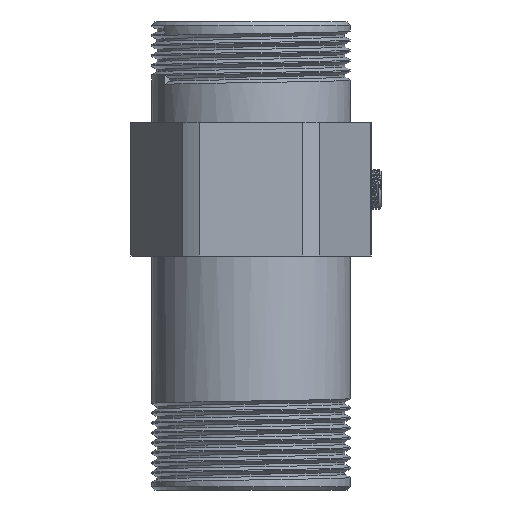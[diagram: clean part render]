
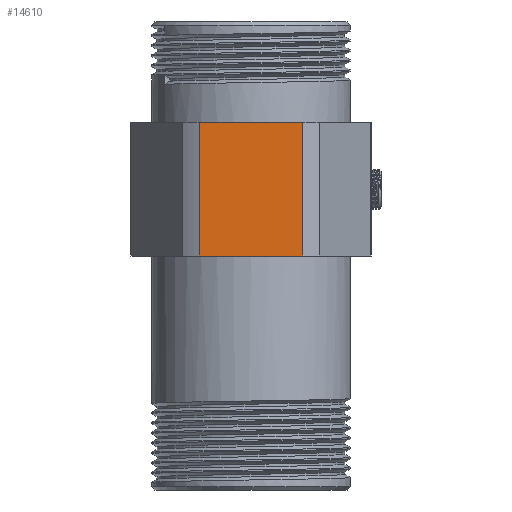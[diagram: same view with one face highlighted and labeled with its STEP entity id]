
A CAD part, front view. The second image highlights one B-rep face of the part: STEP entity #14610.
In plain terms, the highlighted planar face has unit normal (0, -1, 0) as drawn and (-0.5, -0.866, 0) by its records, which use the part's own axes.
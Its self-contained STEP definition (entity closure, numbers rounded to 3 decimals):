
#357 = CARTESIAN_POINT ( 'NONE',  ( -2.841, -35.888, 0. ) ) ;
#1802 = LINE ( 'NONE', #23992, #5715 ) ;
#1843 = DIRECTION ( 'NONE',  ( 0., 0., 1. ) ) ;
#2263 = ORIENTED_EDGE ( 'NONE', *, *, #16653, .T. ) ;
#2979 = VECTOR ( 'NONE', #1843, 1000. ) ;
#3436 = DIRECTION ( 'NONE',  ( -0.866, 0.5, 0. ) ) ;
#4241 = DIRECTION ( 'NONE',  ( 0.866, -0.5, 0. ) ) ;
#5713 = LINE ( 'NONE', #14267, #2979 ) ;
#5715 = VECTOR ( 'NONE', #23498, 1000. ) ;
#7046 = PLANE ( 'NONE',  #15812 ) ;
#7440 = CARTESIAN_POINT ( 'NONE',  ( -32.5, -18.764, 40. ) ) ;
#8102 = VERTEX_POINT ( 'NONE', #26094 ) ;
#8432 = VERTEX_POINT ( 'NONE', #24299 ) ;
#9445 = FACE_OUTER_BOUND ( 'NONE', #13673, .T. ) ;
#9979 = LINE ( 'NONE', #18152, #19593 ) ;
#13568 = DIRECTION ( 'NONE',  ( -0.5, -0.866, 0. ) ) ;
#13673 = EDGE_LOOP ( 'NONE', ( #14859, #20955, #2263, #13698 ) ) ;
#13698 = ORIENTED_EDGE ( 'NONE', *, *, #16489, .T. ) ;
#14267 = CARTESIAN_POINT ( 'NONE',  ( -2.841, -35.888, -27. ) ) ;
#14610 = ADVANCED_FACE ( 'NONE', ( #9445 ), #7046, .T. ) ;
#14859 = ORIENTED_EDGE ( 'NONE', *, *, #18820, .T. ) ;
#15477 = DIRECTION ( 'NONE',  ( 0.866, -0.5, 0. ) ) ;
#15812 = AXIS2_PLACEMENT_3D ( 'NONE', #19742, #13568, #15477 ) ;
#16489 = EDGE_CURVE ( 'NONE', #21070, #8432, #1802, .T. ) ;
#16653 = EDGE_CURVE ( 'NONE', #8102, #21070, #17623, .T. ) ;
#16668 = CARTESIAN_POINT ( 'NONE',  ( -29.659, -20.404, 40. ) ) ;
#17224 = VERTEX_POINT ( 'NONE', #357 ) ;
#17623 = LINE ( 'NONE', #7440, #21494 ) ;
#18152 = CARTESIAN_POINT ( 'NONE',  ( -32.5, -18.764, 0. ) ) ;
#18711 = EDGE_CURVE ( 'NONE', #17224, #8102, #5713, .T. ) ;
#18820 = EDGE_CURVE ( 'NONE', #8432, #17224, #9979, .T. ) ;
#19593 = VECTOR ( 'NONE', #4241, 1000. ) ;
#19742 = CARTESIAN_POINT ( 'NONE',  ( -32.5, -18.764, 0. ) ) ;
#20955 = ORIENTED_EDGE ( 'NONE', *, *, #18711, .T. ) ;
#21070 = VERTEX_POINT ( 'NONE', #16668 ) ;
#21494 = VECTOR ( 'NONE', #3436, 1000. ) ;
#23498 = DIRECTION ( 'NONE',  ( 0., 0., -1. ) ) ;
#23992 = CARTESIAN_POINT ( 'NONE',  ( -29.659, -20.404, -27. ) ) ;
#24299 = CARTESIAN_POINT ( 'NONE',  ( -29.659, -20.404, 0. ) ) ;
#26094 = CARTESIAN_POINT ( 'NONE',  ( -2.841, -35.888, 40. ) ) ;
